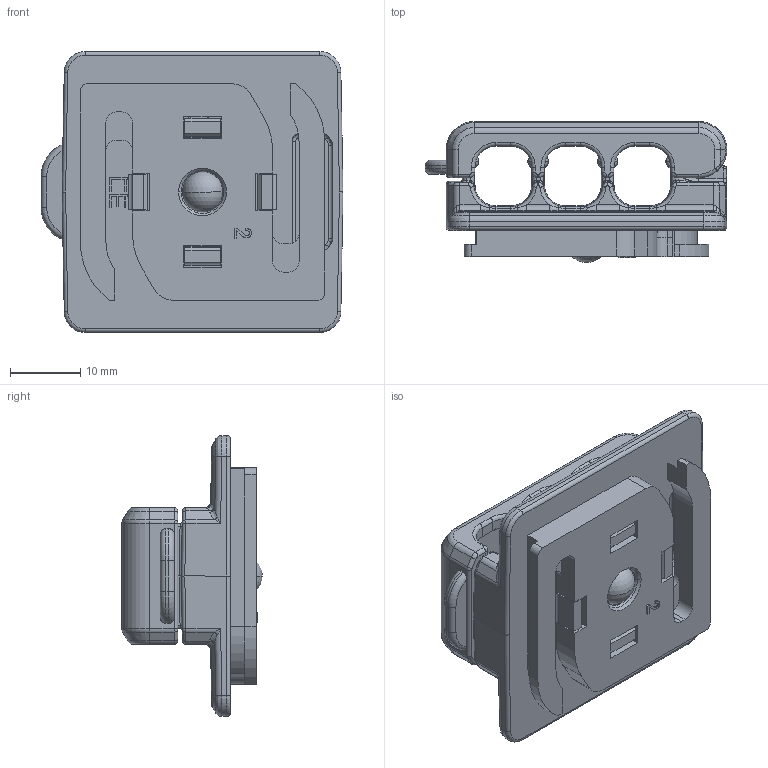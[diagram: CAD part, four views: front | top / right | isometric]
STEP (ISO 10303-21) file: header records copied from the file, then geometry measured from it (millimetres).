
FILE_DESCRIPTION (( 'STEP AP203' ), '1' );
FILE_NAME ('コードクリップ_', '2025-07-09T03:57:16', ( '' ), ( '' ), 'SwSTEP 2.0', 'SolidWorks 2025', '' );
FILE_SCHEMA (( 'CONFIG_CONTROL_DESIGN' ));
Length unit declared in the file: millimetre
Products named in the file (5): CCスライダー; コードクリップ_ヨコ; CCベース; CCフック; Φ6鋼球
Assembly tree (4 placements, depth 2):
  コードクリップ_ヨコ
    CCスライダー
    CCベース
    CCフック
    Φ6鋼球
Bounding box: 43 x 20.05 x 40 mm (x, y, z)
Volume: 11827.9 mm3; surface area: 10429 mm2
Topology: 4 solids, 4 shells, 999 faces, 2476 edges, 1477 vertices
Faces by surface type: plane 321, cylinder 255, bspline 229, torus 122, cone 62, sphere 10
Entity records: 34625 total; most frequent: CARTESIAN_POINT 12178, ORIENTED_EDGE 4892, DIRECTION 4214, EDGE_CURVE 2446, AXIS2_PLACEMENT_3D 1529, VERTEX_POINT 1471, LINE 1156, VECTOR 1156
